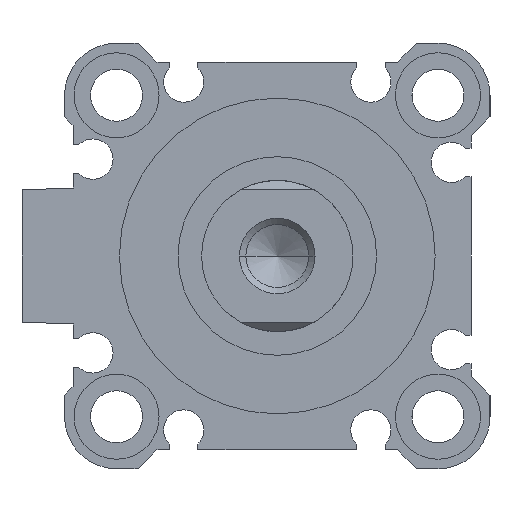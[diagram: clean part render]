
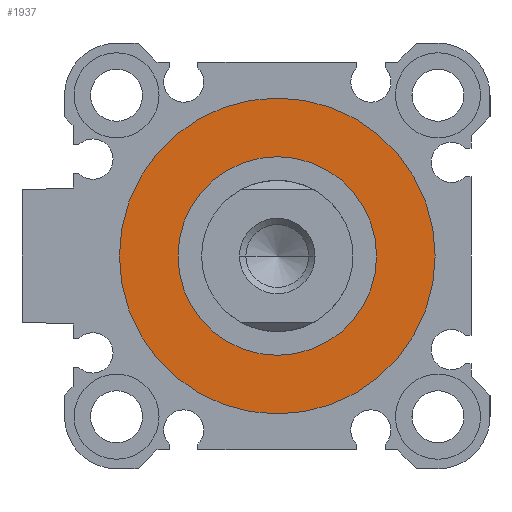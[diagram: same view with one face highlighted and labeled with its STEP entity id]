
A CAD part, left-side view. The second image highlights one B-rep face of the part: STEP entity #1937.
In plain terms, the highlighted planar face has unit normal (-1, 0, 0).
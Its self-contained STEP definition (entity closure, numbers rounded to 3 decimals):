
#242 = CARTESIAN_POINT ( 'NONE',  ( 2.1, 0., -16.7 ) ) ;
#245 = ORIENTED_EDGE ( 'NONE', *, *, #1824, .T. ) ;
#255 = DIRECTION ( 'NONE',  ( 0., 0., -1. ) ) ;
#267 = VERTEX_POINT ( 'NONE', #2526 ) ;
#277 = EDGE_CURVE ( 'NONE', #2141, #3477, #1100, .T. ) ;
#306 = CARTESIAN_POINT ( 'NONE',  ( 2.1, 0., 10.5 ) ) ;
#487 = DIRECTION ( 'NONE',  ( 0., 0., -1. ) ) ;
#514 = CARTESIAN_POINT ( 'NONE',  ( 2.1, 0., 0. ) ) ;
#537 = DIRECTION ( 'NONE',  ( 0., 0., -1. ) ) ;
#632 = DIRECTION ( 'NONE',  ( 0., 0., -1. ) ) ;
#704 = CARTESIAN_POINT ( 'NONE',  ( 2.1, 0., 0. ) ) ;
#805 = FACE_OUTER_BOUND ( 'NONE', #4205, .T. ) ;
#832 = DIRECTION ( 'NONE',  ( 0., 1., 0. ) ) ;
#896 = DIRECTION ( 'NONE',  ( 1., 0., 0. ) ) ;
#977 = CIRCLE ( 'NONE', #2681, 10.5 ) ;
#1100 = CIRCLE ( 'NONE', #2416, 16.7 ) ;
#1149 = AXIS2_PLACEMENT_3D ( 'NONE', #2757, #896, #487 ) ;
#1277 = ORIENTED_EDGE ( 'NONE', *, *, #4741, .F. ) ;
#1398 = CARTESIAN_POINT ( 'NONE',  ( 2.1, 0., 16.7 ) ) ;
#1625 = PLANE ( 'NONE',  #4364 ) ;
#1711 = EDGE_CURVE ( 'NONE', #2764, #267, #2418, .T. ) ;
#1824 = EDGE_CURVE ( 'NONE', #267, #2764, #977, .T. ) ;
#1937 = ADVANCED_FACE ( 'NONE', ( #805, #4648 ), #1625, .F. ) ;
#2141 = VERTEX_POINT ( 'NONE', #1398 ) ;
#2416 = AXIS2_PLACEMENT_3D ( 'NONE', #4611, #4100, #255 ) ;
#2418 = CIRCLE ( 'NONE', #2524, 10.5 ) ;
#2524 = AXIS2_PLACEMENT_3D ( 'NONE', #514, #2854, #537 ) ;
#2526 = CARTESIAN_POINT ( 'NONE',  ( 2.1, 0., -10.5 ) ) ;
#2681 = AXIS2_PLACEMENT_3D ( 'NONE', #704, #2955, #632 ) ;
#2757 = CARTESIAN_POINT ( 'NONE',  ( 2.1, 0., 0. ) ) ;
#2764 = VERTEX_POINT ( 'NONE', #306 ) ;
#2854 = DIRECTION ( 'NONE',  ( 1., 0., 0. ) ) ;
#2940 = CIRCLE ( 'NONE', #1149, 16.7 ) ;
#2955 = DIRECTION ( 'NONE',  ( 1., 0., 0. ) ) ;
#3457 = CARTESIAN_POINT ( 'NONE',  ( 2.1, 0., 0. ) ) ;
#3477 = VERTEX_POINT ( 'NONE', #242 ) ;
#4035 = ORIENTED_EDGE ( 'NONE', *, *, #277, .F. ) ;
#4100 = DIRECTION ( 'NONE',  ( 1., 0., 0. ) ) ;
#4205 = EDGE_LOOP ( 'NONE', ( #4035, #1277 ) ) ;
#4257 = ORIENTED_EDGE ( 'NONE', *, *, #1711, .T. ) ;
#4326 = DIRECTION ( 'NONE',  ( 1., 0., 0. ) ) ;
#4364 = AXIS2_PLACEMENT_3D ( 'NONE', #3457, #4326, #832 ) ;
#4386 = EDGE_LOOP ( 'NONE', ( #4257, #245 ) ) ;
#4611 = CARTESIAN_POINT ( 'NONE',  ( 2.1, 0., 0. ) ) ;
#4648 = FACE_BOUND ( 'NONE', #4386, .T. ) ;
#4741 = EDGE_CURVE ( 'NONE', #3477, #2141, #2940, .T. ) ;
